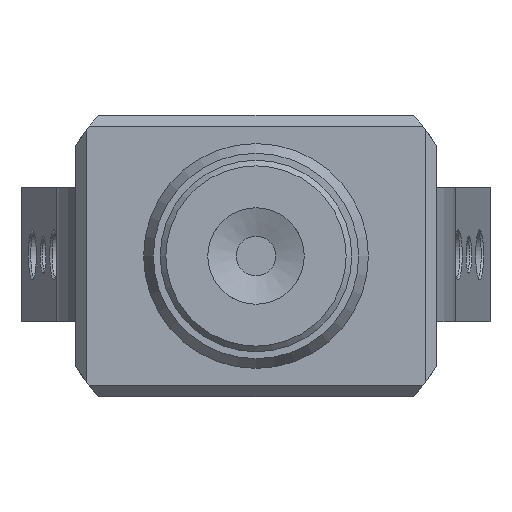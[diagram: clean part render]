
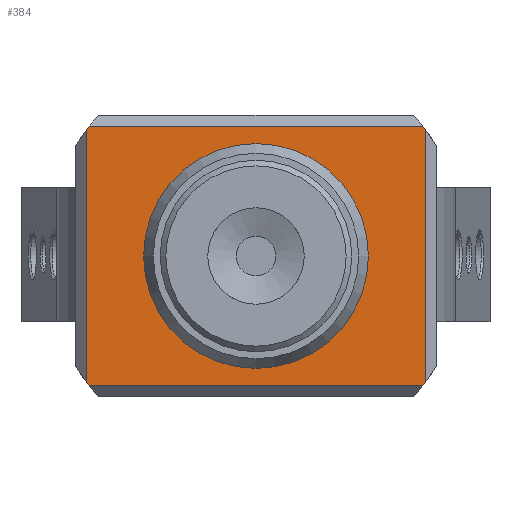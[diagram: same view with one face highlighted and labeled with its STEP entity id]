
A CAD part, front view. The second image highlights one B-rep face of the part: STEP entity #384.
In plain terms, the highlighted planar face has unit normal (0, -1, 0).
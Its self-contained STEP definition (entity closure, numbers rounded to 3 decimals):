
#384=ADVANCED_FACE('',(#719,#720),#721,.F.);
#719=FACE_BOUND('',#1064,.T.);
#720=FACE_OUTER_BOUND('',#1065,.T.);
#721=PLANE('',#1066);
#1064=EDGE_LOOP('',(#1715));
#1065=EDGE_LOOP('',(#1716,#1717,#1718,#1719,#1720,#1721,#1722,#1723));
#1066=AXIS2_PLACEMENT_3D('',#1724,#1725,#1726);
#1715=ORIENTED_EDGE('',*,*,#2182,.T.);
#1716=ORIENTED_EDGE('',*,*,#2183,.T.);
#1717=ORIENTED_EDGE('',*,*,#2091,.T.);
#1718=ORIENTED_EDGE('',*,*,#2061,.T.);
#1719=ORIENTED_EDGE('',*,*,#2104,.T.);
#1720=ORIENTED_EDGE('',*,*,#2184,.T.);
#1721=ORIENTED_EDGE('',*,*,#2101,.T.);
#1722=ORIENTED_EDGE('',*,*,#2185,.T.);
#1723=ORIENTED_EDGE('',*,*,#2096,.T.);
#1724=CARTESIAN_POINT('',(-9.975,43.0,0.0));
#1725=DIRECTION('',(-0.0,1.0,0.0));
#1726=DIRECTION('',(1.0,0.0,0.0));
#2061=EDGE_CURVE('',#2421,#2422,#2423,.F.);
#2091=EDGE_CURVE('',#2472,#2421,#2475,.T.);
#2096=EDGE_CURVE('',#2478,#2482,#2484,.T.);
#2101=EDGE_CURVE('',#2487,#2491,#2493,.T.);
#2104=EDGE_CURVE('',#2422,#2495,#2498,.T.);
#2182=EDGE_CURVE('',#2616,#2616,#2617,.T.);
#2183=EDGE_CURVE('',#2482,#2472,#2618,.F.);
#2184=EDGE_CURVE('',#2495,#2487,#2619,.F.);
#2185=EDGE_CURVE('',#2491,#2478,#2620,.F.);
#2421=VERTEX_POINT('',#2928);
#2422=VERTEX_POINT('',#2929);
#2423=CIRCLE('',#2930,18.75);
#2472=VERTEX_POINT('',#3019);
#2475=LINE('',#3023,#3024);
#2478=VERTEX_POINT('',#3027);
#2482=VERTEX_POINT('',#3032);
#2484=LINE('',#3034,#3035);
#2487=VERTEX_POINT('',#3038);
#2491=VERTEX_POINT('',#3043);
#2493=LINE('',#3045,#3046);
#2495=VERTEX_POINT('',#3048);
#2498=LINE('',#3051,#3052);
#2616=VERTEX_POINT('',#3197);
#2617=CIRCLE('',#3198,9.975);
#2618=CIRCLE('',#3199,18.75);
#2619=CIRCLE('',#3200,18.75);
#2620=CIRCLE('',#3201,18.75);
#2928=CARTESIAN_POINT('',(-14.809,43.0,11.5));
#2929=CARTESIAN_POINT('',(-15.0,43.0,11.25));
#2930=AXIS2_PLACEMENT_3D('',#3484,#3485,#3486);
#3019=CARTESIAN_POINT('',(14.809,43.0,11.5));
#3023=CARTESIAN_POINT('',(-13.975,43.0,11.5));
#3024=VECTOR('',#3533,1.0);
#3027=CARTESIAN_POINT('',(15.0,43.0,-11.25));
#3032=CARTESIAN_POINT('',(15.0,43.0,11.25));
#3034=CARTESIAN_POINT('',(15.0,43.0,0.0));
#3035=VECTOR('',#3541,1.0);
#3038=CARTESIAN_POINT('',(-14.809,43.0,-11.5));
#3043=CARTESIAN_POINT('',(14.809,43.0,-11.5));
#3045=CARTESIAN_POINT('',(-9.975,43.0,-11.5));
#3046=VECTOR('',#3549,1.0);
#3048=CARTESIAN_POINT('',(-15.0,43.0,-11.25));
#3051=CARTESIAN_POINT('',(-15.0,43.0,-9.776));
#3052=VECTOR('',#3553,1.0);
#3197=CARTESIAN_POINT('',(0.0,43.0,9.975));
#3198=AXIS2_PLACEMENT_3D('',#3665,#3666,#3667);
#3199=AXIS2_PLACEMENT_3D('',#3668,#3669,#3670);
#3200=AXIS2_PLACEMENT_3D('',#3671,#3672,#3673);
#3201=AXIS2_PLACEMENT_3D('',#3674,#3675,#3676);
#3484=CARTESIAN_POINT('',(0.0,43.0,0.0));
#3485=DIRECTION('',(0.0,1.0,0.0));
#3486=DIRECTION('',(0.0,0.0,1.0));
#3533=DIRECTION('',(-1.0,0.0,0.0));
#3541=DIRECTION('',(0.0,0.0,1.0));
#3549=DIRECTION('',(1.0,0.0,0.0));
#3553=DIRECTION('',(0.0,0.0,-1.0));
#3665=CARTESIAN_POINT('',(0.0,43.0,0.0));
#3666=DIRECTION('',(0.0,1.0,0.0));
#3667=DIRECTION('',(0.0,0.0,1.0));
#3668=CARTESIAN_POINT('',(0.0,43.0,0.0));
#3669=DIRECTION('',(0.0,1.0,0.0));
#3670=DIRECTION('',(0.0,0.0,1.0));
#3671=CARTESIAN_POINT('',(0.0,43.0,0.0));
#3672=DIRECTION('',(0.0,1.0,0.0));
#3673=DIRECTION('',(0.0,0.0,1.0));
#3674=CARTESIAN_POINT('',(0.0,43.0,0.0));
#3675=DIRECTION('',(0.0,1.0,0.0));
#3676=DIRECTION('',(0.0,0.0,1.0));
